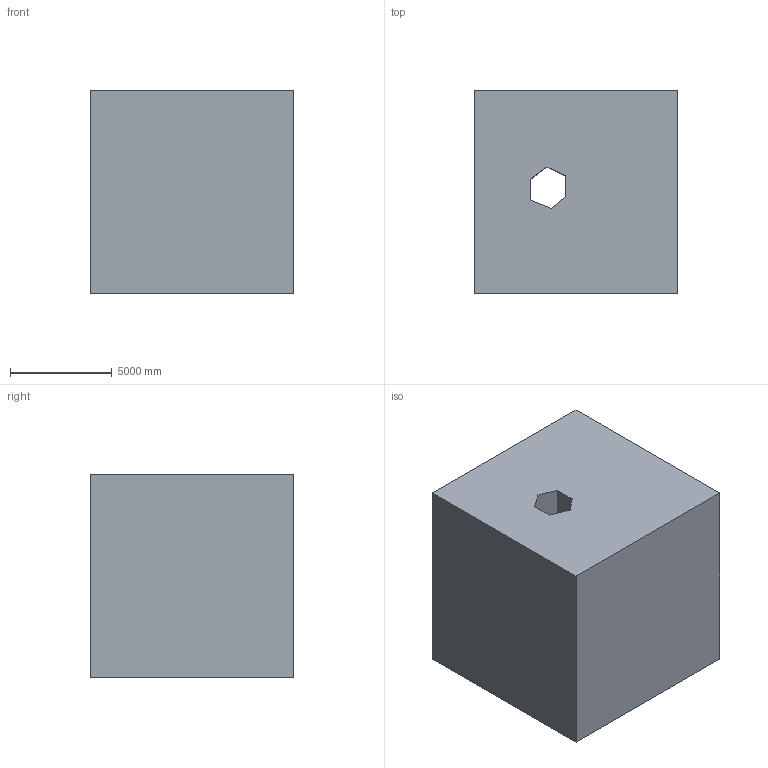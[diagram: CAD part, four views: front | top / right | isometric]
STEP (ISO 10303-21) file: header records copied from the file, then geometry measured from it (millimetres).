
FILE_DESCRIPTION (( 'STEP AP203' ), '1' );
FILE_NAME ('1.STEP', '2022-09-01T11:33:47', ( 'user' ), ( '' ), 'SwSTEP 2.0', 'SolidWorks 2021', '' );
FILE_SCHEMA (( 'CONFIG_CONTROL_DESIGN' ));
Length unit declared in the file: centimetre
Products named in the file (1): 1
Bounding box: 10000 x 10000 x 10000 mm (x, y, z)
Volume: 964937994476.9 mm3; surface area: 688399112.1 mm2
Topology: 1 solids, 1 shells, 18 faces, 42 edges, 28 vertices
Faces by surface type: plane 14, cylinder 4
Entity records: 595 total; most frequent: CARTESIAN_POINT 89, DIRECTION 88, ORIENTED_EDGE 84, EDGE_CURVE 42, VECTOR 34, LINE 34, VERTEX_POINT 28, AXIS2_PLACEMENT_3D 27
